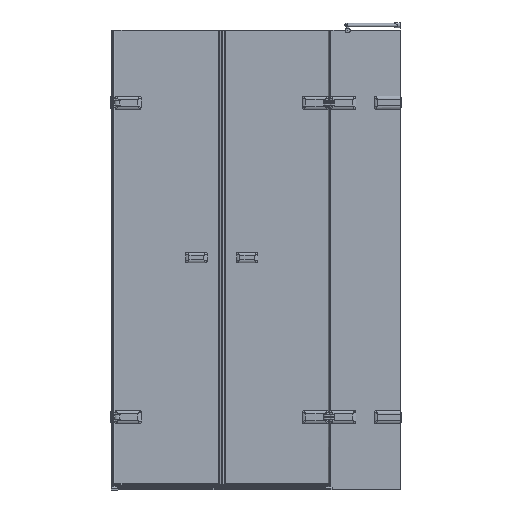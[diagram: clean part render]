
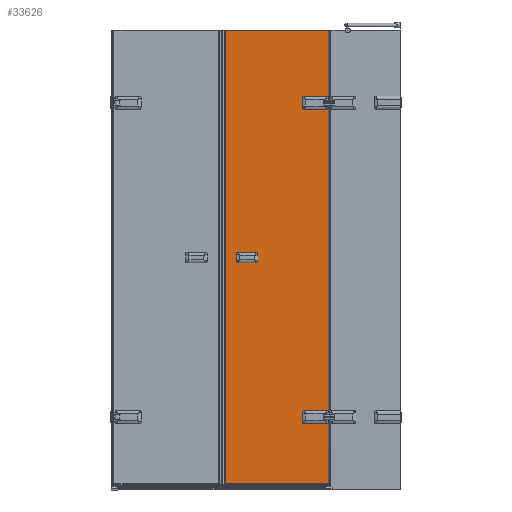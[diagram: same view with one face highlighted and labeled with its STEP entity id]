
A CAD part, front view. The second image highlights one B-rep face of the part: STEP entity #33626.
In plain terms, the highlighted planar face has unit normal (0, -1, 0).
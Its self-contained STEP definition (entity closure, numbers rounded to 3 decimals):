
#1100=CIRCLE($,#35674,5.);
#1135=CIRCLE($,#35745,5.);
#1137=CIRCLE($,#35749,5.);
#1139=CIRCLE($,#35753,5.);
#1183=CIRCLE($,#35883,5.);
#1184=CIRCLE($,#35884,5.);
#1185=CIRCLE($,#35885,5.);
#1186=CIRCLE($,#35886,5.);
#3006=FACE_OUTER_BOUND($,#4910,.T.);
#4910=EDGE_LOOP($,(#23172,#23173,#23174,#23175,#23176,#23177,#23178,#23179,
#23180,#23181,#23182,#23183,#23184,#23185,#23186,#23187,#23188,#23189,#23190,
#23191));
#7334=LINE($,#66555,#10371);
#7338=LINE($,#66567,#10375);
#7342=LINE($,#66578,#10379);
#7415=LINE($,#67228,#10452);
#7416=LINE($,#67237,#10453);
#7417=LINE($,#67241,#10454);
#7418=LINE($,#67245,#10455);
#7419=LINE($,#67249,#10456);
#7420=LINE($,#67251,#10457);
#7421=LINE($,#67253,#10458);
#7422=LINE($,#67255,#10459);
#7423=LINE($,#67256,#10460);
#10371=VECTOR($,#40228,96.);
#10375=VECTOR($,#40240,42.);
#10379=VECTOR($,#40252,96.);
#10452=VECTOR($,#40569,1254.861);
#10453=VECTOR($,#40582,96.);
#10454=VECTOR($,#40585,42.);
#10455=VECTOR($,#40588,96.);
#10456=VECTOR($,#40591,277.43);
#10457=VECTOR($,#40592,430.247);
#10458=VECTOR($,#40593,1875.4);
#10459=VECTOR($,#40594,430.247);
#10460=VECTOR($,#40595,252.83);
#13544=VERTEX_POINT($,#66235);
#13546=VERTEX_POINT($,#66246);
#13648=VERTEX_POINT($,#66539);
#13649=VERTEX_POINT($,#66548);
#13651=VERTEX_POINT($,#66554);
#13653=VERTEX_POINT($,#66560);
#13655=VERTEX_POINT($,#66566);
#13657=VERTEX_POINT($,#66572);
#13737=VERTEX_POINT($,#67219);
#13738=VERTEX_POINT($,#67234);
#13739=VERTEX_POINT($,#67236);
#13740=VERTEX_POINT($,#67238);
#13741=VERTEX_POINT($,#67240);
#13742=VERTEX_POINT($,#67242);
#13743=VERTEX_POINT($,#67244);
#13744=VERTEX_POINT($,#67246);
#13745=VERTEX_POINT($,#67248);
#13746=VERTEX_POINT($,#67250);
#13747=VERTEX_POINT($,#67252);
#13748=VERTEX_POINT($,#67254);
#16945=EDGE_CURVE($,#13546,#13544,#1100,.T.);
#17092=EDGE_CURVE($,#13648,#13649,#1135,.T.);
#17095=EDGE_CURVE($,#13649,#13651,#7334,.T.);
#17098=EDGE_CURVE($,#13651,#13653,#1137,.T.);
#17101=EDGE_CURVE($,#13653,#13655,#7338,.T.);
#17104=EDGE_CURVE($,#13655,#13657,#1139,.T.);
#17107=EDGE_CURVE($,#13657,#13546,#7342,.T.);
#17251=EDGE_CURVE($,#13737,#13648,#7415,.T.);
#17254=EDGE_CURVE($,#13738,#13737,#1183,.T.);
#17255=EDGE_CURVE($,#13739,#13738,#7416,.T.);
#17256=EDGE_CURVE($,#13740,#13739,#1184,.T.);
#17257=EDGE_CURVE($,#13741,#13740,#7417,.T.);
#17258=EDGE_CURVE($,#13742,#13741,#1185,.T.);
#17259=EDGE_CURVE($,#13743,#13742,#7418,.T.);
#17260=EDGE_CURVE($,#13744,#13743,#1186,.T.);
#17261=EDGE_CURVE($,#13745,#13744,#7419,.T.);
#17262=EDGE_CURVE($,#13745,#13746,#7420,.T.);
#17263=EDGE_CURVE($,#13747,#13746,#7421,.T.);
#17264=EDGE_CURVE($,#13748,#13747,#7422,.T.);
#17265=EDGE_CURVE($,#13544,#13748,#7423,.T.);
#23172=ORIENTED_EDGE($,*,*,#17092,.F.);
#23173=ORIENTED_EDGE($,*,*,#17251,.F.);
#23174=ORIENTED_EDGE($,*,*,#17254,.F.);
#23175=ORIENTED_EDGE($,*,*,#17255,.F.);
#23176=ORIENTED_EDGE($,*,*,#17256,.F.);
#23177=ORIENTED_EDGE($,*,*,#17257,.F.);
#23178=ORIENTED_EDGE($,*,*,#17258,.F.);
#23179=ORIENTED_EDGE($,*,*,#17259,.F.);
#23180=ORIENTED_EDGE($,*,*,#17260,.F.);
#23181=ORIENTED_EDGE($,*,*,#17261,.F.);
#23182=ORIENTED_EDGE($,*,*,#17262,.T.);
#23183=ORIENTED_EDGE($,*,*,#17263,.F.);
#23184=ORIENTED_EDGE($,*,*,#17264,.F.);
#23185=ORIENTED_EDGE($,*,*,#17265,.F.);
#23186=ORIENTED_EDGE($,*,*,#16945,.F.);
#23187=ORIENTED_EDGE($,*,*,#17107,.F.);
#23188=ORIENTED_EDGE($,*,*,#17104,.F.);
#23189=ORIENTED_EDGE($,*,*,#17101,.F.);
#23190=ORIENTED_EDGE($,*,*,#17098,.F.);
#23191=ORIENTED_EDGE($,*,*,#17095,.F.);
#30530=PLANE($,#35882);
#33626=ADVANCED_FACE($,(#3006),#30530,.F.);
#35674=AXIS2_PLACEMENT_3D($,#66248,#39972,#39973);
#35745=AXIS2_PLACEMENT_3D($,#66549,#40221,#40222);
#35749=AXIS2_PLACEMENT_3D($,#66561,#40233,#40234);
#35753=AXIS2_PLACEMENT_3D($,#66573,#40245,#40246);
#35882=AXIS2_PLACEMENT_3D($,#67233,#40578,#40579);
#35883=AXIS2_PLACEMENT_3D($,#67235,#40580,#40581);
#35884=AXIS2_PLACEMENT_3D($,#67239,#40583,#40584);
#35885=AXIS2_PLACEMENT_3D($,#67243,#40586,#40587);
#35886=AXIS2_PLACEMENT_3D($,#67247,#40589,#40590);
#39972=DIRECTION('center_axis',(0.,-1.,0.));
#39973=DIRECTION('ref_axis',(-1.,0.,0.));
#40221=DIRECTION('center_axis',(0.,-1.,0.));
#40222=DIRECTION('ref_axis',(0.,0.,
-1.));
#40228=DIRECTION($,(-1.,0.,0.));
#40233=DIRECTION('center_axis',(0.,-1.,0.));
#40234=DIRECTION('ref_axis',(1.,0.,0.));
#40240=DIRECTION($,(0.,0.,-1.));
#40245=DIRECTION('center_axis',(0.,-1.,0.));
#40246=DIRECTION('ref_axis',(0.,0.,
1.));
#40252=DIRECTION($,(1.,0.,0.));
#40569=DIRECTION($,(0.,0.,-1.));
#40578=DIRECTION('center_axis',(0.,1.,0.));
#40579=DIRECTION('ref_axis',(-1.,0.,0.));
#40580=DIRECTION('center_axis',(0.,-1.,0.));
#40581=DIRECTION('ref_axis',(-1.,0.,0.));
#40582=DIRECTION($,(1.,0.,0.));
#40583=DIRECTION('center_axis',(0.,-1.,0.));
#40584=DIRECTION('ref_axis',(0.,0.,
1.));
#40585=DIRECTION($,(0.,0.,-1.));
#40586=DIRECTION('center_axis',(0.,-1.,0.));
#40587=DIRECTION('ref_axis',(1.,0.,0.));
#40588=DIRECTION($,(-1.,0.,0.));
#40589=DIRECTION('center_axis',(0.,-1.,0.));
#40590=DIRECTION('ref_axis',(0.,0.,
-1.));
#40591=DIRECTION($,(0.,0.,-1.));
#40592=DIRECTION($,(-1.,0.,0.));
#40593=DIRECTION($,(0.,0.,1.));
#40594=DIRECTION($,(-1.,0.,0.));
#40595=DIRECTION($,(0.,0.,-1.));
#66235=CARTESIAN_POINT('',(2531.433,45.956,-236.625));
#66246=CARTESIAN_POINT('',(2526.686,45.956,-240.056));
#66248=CARTESIAN_POINT('Origin',(2526.686,45.956,-235.056));
#66539=CARTESIAN_POINT('',(2531.433,45.956,-191.486));
#66548=CARTESIAN_POINT('',(2526.686,45.956,-188.056));
#66549=CARTESIAN_POINT('Origin',(2526.686,45.956,-193.056));
#66554=CARTESIAN_POINT('',(2430.686,45.956,-188.056));
#66555=CARTESIAN_POINT($,(2481.686,45.956,-188.056));
#66560=CARTESIAN_POINT('',(2425.686,45.956,-193.056));
#66561=CARTESIAN_POINT('Origin',(2430.686,45.956,-193.056));
#66566=CARTESIAN_POINT('',(2425.686,45.956,-235.056));
#66567=CARTESIAN_POINT($,(2425.686,45.956,-364.556));
#66572=CARTESIAN_POINT('',(2430.686,45.956,-240.056));
#66573=CARTESIAN_POINT('Origin',(2430.686,45.956,-235.056));
#66578=CARTESIAN_POINT($,(2529.686,45.956,-240.056));
#67219=CARTESIAN_POINT('',(2531.433,45.956,1063.375));
#67228=CARTESIAN_POINT($,(2531.433,45.956,-202.056));
#67233=CARTESIAN_POINT('Origin',(2532.686,45.956,-494.056));
#67234=CARTESIAN_POINT('',(2526.686,45.956,1059.944));
#67235=CARTESIAN_POINT('Origin',(2526.686,45.956,1064.944));
#67236=CARTESIAN_POINT('',(2430.686,45.956,1059.944));
#67237=CARTESIAN_POINT($,(2529.686,45.956,1059.944));
#67238=CARTESIAN_POINT('',(2425.686,45.956,1064.944));
#67239=CARTESIAN_POINT('Origin',(2430.686,45.956,1064.944));
#67240=CARTESIAN_POINT('',(2425.686,45.956,1106.944));
#67241=CARTESIAN_POINT($,(2425.686,45.956,285.444));
#67242=CARTESIAN_POINT('',(2430.686,45.956,1111.944));
#67243=CARTESIAN_POINT('Origin',(2430.686,45.956,1106.944));
#67244=CARTESIAN_POINT('',(2526.686,45.956,1111.944));
#67245=CARTESIAN_POINT($,(2481.686,45.956,1111.944));
#67246=CARTESIAN_POINT('',(2531.433,45.956,1108.514));
#67247=CARTESIAN_POINT('Origin',(2526.686,45.956,1106.944));
#67248=CARTESIAN_POINT('',(2531.433,45.956,1385.944));
#67249=CARTESIAN_POINT($,(2531.433,45.956,1095.944));
#67250=CARTESIAN_POINT('',(2101.186,45.956,1385.944));
#67251=CARTESIAN_POINT($,(2532.686,45.956,1385.944));
#67252=CARTESIAN_POINT('',(2101.186,45.956,-489.456));
#67253=CARTESIAN_POINT($,(2101.186,45.956,-494.056));
#67254=CARTESIAN_POINT('',(2531.433,45.956,-489.456));
#67255=CARTESIAN_POINT($,(2532.686,45.956,-489.456));
#67256=CARTESIAN_POINT($,(2531.433,45.956,-224.056));
